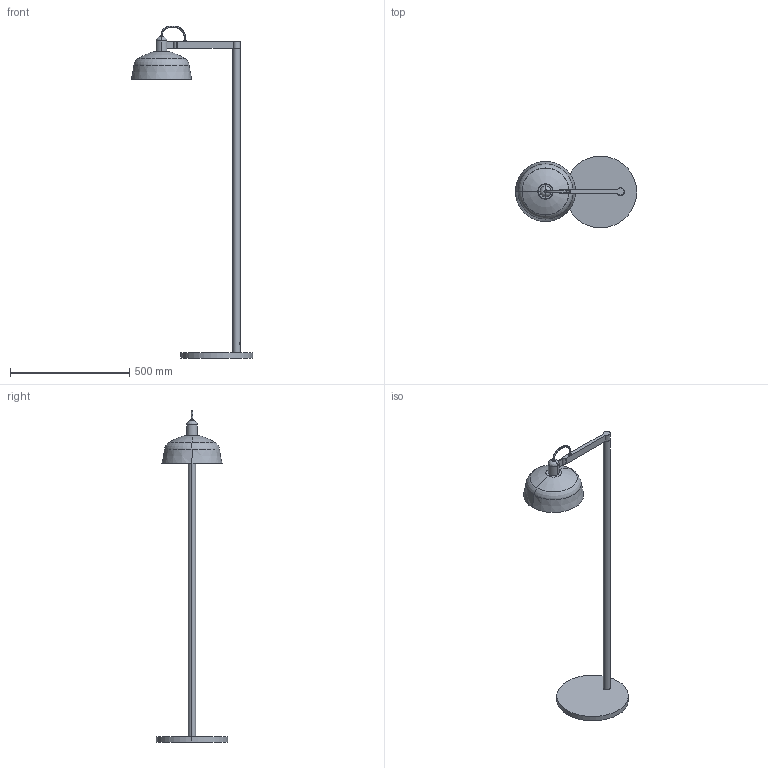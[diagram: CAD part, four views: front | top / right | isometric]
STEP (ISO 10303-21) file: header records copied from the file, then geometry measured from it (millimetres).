
FILE_DESCRIPTION(/* description */ (''),/* implementation_level */ '2;1');
FILE_NAME(/* name */ '20336-119.step',/* time_stamp */ '2024-05-28T17:20:00+02:00',/* author */ ('RenataManzini'),/* organization */ (''),/* preprocessor_version */ 'ST-DEVELOPER v20',/* originating_system */ 'AutoCAD Mechanical',/* authorisation */ '');
FILE_SCHEMA (('AUTOMOTIVE_DESIGN { 1 0 10303 214 3 1 1 }'));
Length unit declared in the file: millimetre
Products named in the file (2): Product; TATAWIN_PIE_M - pieza_62173-626282-_3D_
Assembly tree (1 placements, depth 2):
  Product
    TATAWIN_PIE_M - pieza_62173-626282-_3D_
Bounding box: 507.07 x 300 x 1389.94 mm (x, y, z)
Volume: 3191783.1 mm3; surface area: 532734 mm2
Topology: 5 solids, 5 shells, 94 faces, 194 edges, 113 vertices
Faces by surface type: plane 42, cylinder 28, bspline 14, torus 6, cone 4
Entity records: 3745 total; most frequent: CARTESIAN_POINT 1801, DIRECTION 393, ORIENTED_EDGE 382, EDGE_CURVE 191, AXIS2_PLACEMENT_3D 156, VERTEX_POINT 108, EDGE_LOOP 95, FACE_OUTER_BOUND 94
